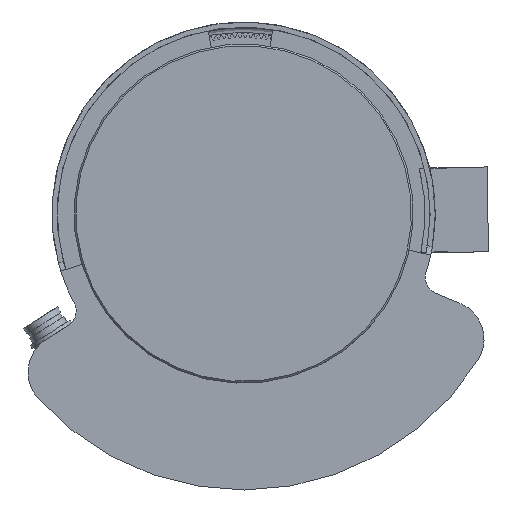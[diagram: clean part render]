
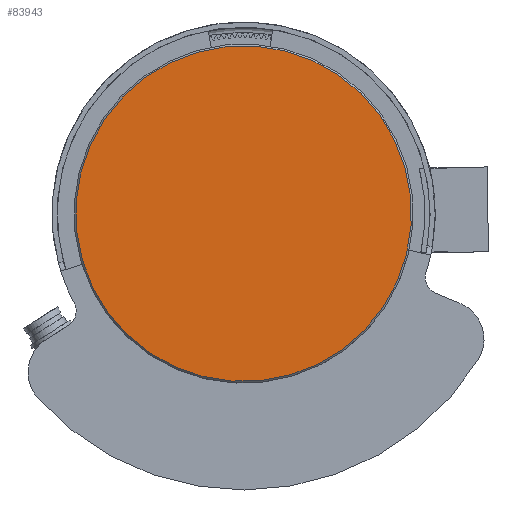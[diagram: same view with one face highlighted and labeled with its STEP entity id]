
A CAD part, left-side view. The second image highlights one B-rep face of the part: STEP entity #83943.
In plain terms, the highlighted planar face has unit normal (-1, 0, 0).
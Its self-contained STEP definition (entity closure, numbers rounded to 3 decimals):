
#83903=CARTESIAN_POINT('',(-111.319,47.582,-13.644));
#83904=VERTEX_POINT('',#83903);
#83905=CARTESIAN_POINT('',(-111.319,0.,0.));
#83906=DIRECTION('',(1.0,0.,0.));
#83907=DIRECTION('',(0.,-0.961,0.276));
#83908=AXIS2_PLACEMENT_3D('',#83905,#83906,#83907);
#83909=CIRCLE('',#83908,49.5);
#83910=EDGE_CURVE('',#83904,#83904,#83909,.T.);
#83935=CARTESIAN_POINT('',(-111.319,46.717,-13.396));
#83936=DIRECTION('',(-1.0,0.0,0.0));
#83937=DIRECTION('',(0.0,0.961,-0.276));
#83938=AXIS2_PLACEMENT_3D('',#83935,#83936,#83937);
#83939=PLANE('',#83938);
#83940=ORIENTED_EDGE('',*,*,#83910,.F.);
#83941=EDGE_LOOP('',(#83940));
#83942=FACE_OUTER_BOUND('',#83941,.T.);
#83943=ADVANCED_FACE('',(#83942),#83939,.T.);
